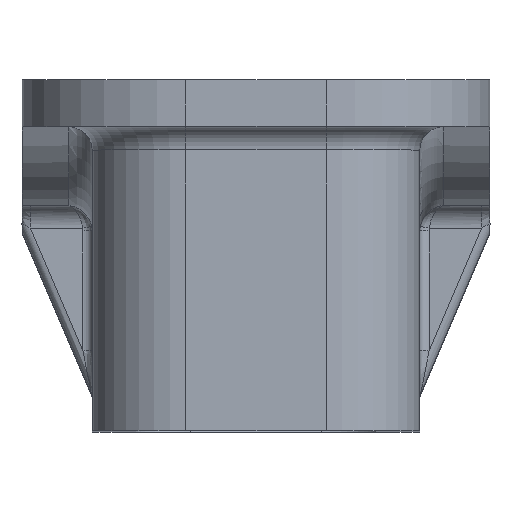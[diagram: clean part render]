
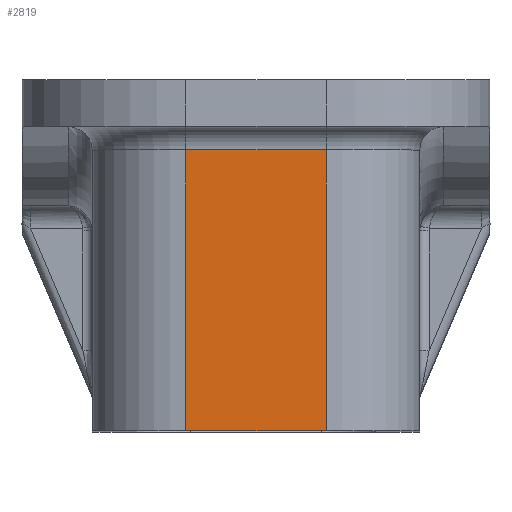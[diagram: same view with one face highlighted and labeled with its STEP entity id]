
A CAD part, top view. The second image highlights one B-rep face of the part: STEP entity #2819.
In plain terms, the highlighted planar face has unit normal (0, 0, 1).
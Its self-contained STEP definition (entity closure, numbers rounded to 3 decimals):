
#452=FACE_OUTER_BOUND('',#621,.T.);
#621=EDGE_LOOP('',(#2605,#2606,#2607,#2608));
#747=LINE('',#3919,#932);
#850=LINE('',#5860,#1035);
#921=LINE('',#6266,#1106);
#926=LINE('',#6279,#1111);
#932=VECTOR('',#3145,10.);
#1035=VECTOR('',#3588,10.);
#1106=VECTOR('',#3863,10.);
#1111=VECTOR('',#3884,10.);
#1120=VERTEX_POINT('',#3916);
#1121=VERTEX_POINT('',#3918);
#1307=VERTEX_POINT('',#5852);
#1309=VERTEX_POINT('',#5858);
#1370=EDGE_CURVE('',#1120,#1121,#747,.T.);
#1645=EDGE_CURVE('',#1309,#1307,#850,.T.);
#1768=EDGE_CURVE('',#1121,#1309,#921,.T.);
#1773=EDGE_CURVE('',#1307,#1120,#926,.T.);
#2605=ORIENTED_EDGE('',*,*,#1645,.F.);
#2606=ORIENTED_EDGE('',*,*,#1768,.F.);
#2607=ORIENTED_EDGE('',*,*,#1370,.F.);
#2608=ORIENTED_EDGE('',*,*,#1773,.F.);
#2653=PLANE('',#3131);
#2819=ADVANCED_FACE('',(#452),#2653,.T.);
#3131=AXIS2_PLACEMENT_3D('',#6367,#3901,#3902);
#3145=DIRECTION('',(-1.,0.,0.));
#3588=DIRECTION('',(1.,0.,0.));
#3863=DIRECTION('',(0.,1.,0.));
#3884=DIRECTION('',(0.,-1.,0.));
#3901=DIRECTION('center_axis',(0.,0.,1.));
#3902=DIRECTION('ref_axis',(1.,0.,0.));
#3916=CARTESIAN_POINT('',(15.,15.,105.));
#3918=CARTESIAN_POINT('',(-15.,15.,105.));
#3919=CARTESIAN_POINT('',(-17.5,15.,105.));
#5852=CARTESIAN_POINT('',(15.,75.,105.));
#5858=CARTESIAN_POINT('',(-15.,75.,105.));
#5860=CARTESIAN_POINT('',(-17.5,75.,105.));
#6266=CARTESIAN_POINT('',(-15.,0.,105.));
#6279=CARTESIAN_POINT('',(15.,0.,105.));
#6367=CARTESIAN_POINT('Origin',(-35.,0.,105.));
